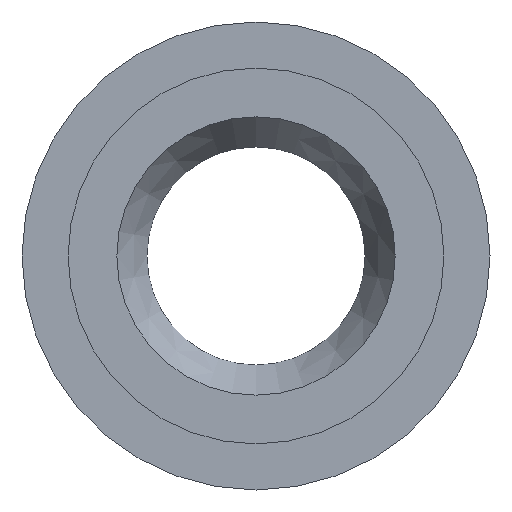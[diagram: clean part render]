
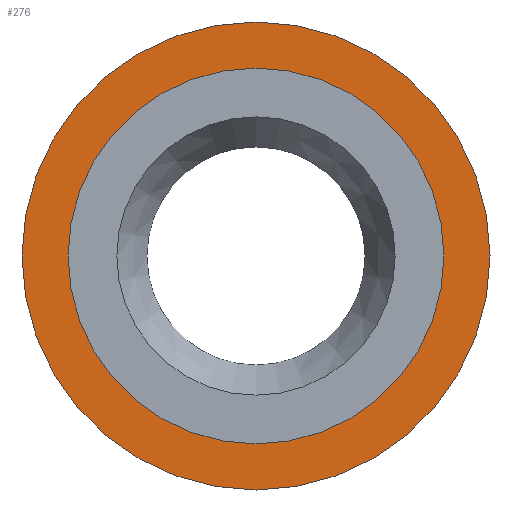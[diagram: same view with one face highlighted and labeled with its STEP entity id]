
A CAD part, front view. The second image highlights one B-rep face of the part: STEP entity #276.
In plain terms, the highlighted planar face has unit normal (0, -1, 0).
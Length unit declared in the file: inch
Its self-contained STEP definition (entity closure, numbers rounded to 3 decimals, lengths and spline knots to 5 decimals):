
#11 = ORIENTED_EDGE ( 'NONE', *, *, #348, .F. ) ;
#13 = VERTEX_POINT ( 'NONE', #258 ) ;
#14 = EDGE_CURVE ( 'NONE', #66, #250, #43, .T. ) ;
#15 = VERTEX_POINT ( 'NONE', #257 ) ;
#22 = AXIS2_PLACEMENT_3D ( 'NONE', #113, #264, #79 ) ;
#25 = CARTESIAN_POINT ( 'NONE',  ( 0., 0.15, 0. ) ) ;
#43 = CIRCLE ( 'NONE', #274, 0.94 ) ;
#56 = DIRECTION ( 'NONE',  ( 0., 0., 1. ) ) ;
#59 = DIRECTION ( 'NONE',  ( 0., 1., 0. ) ) ;
#64 = CIRCLE ( 'NONE', #268, 0.94 ) ;
#66 = VERTEX_POINT ( 'NONE', #229 ) ;
#69 = EDGE_LOOP ( 'NONE', ( #161, #11 ) ) ;
#74 = AXIS2_PLACEMENT_3D ( 'NONE', #25, #232, #373 ) ;
#75 = EDGE_LOOP ( 'NONE', ( #319, #349 ) ) ;
#79 = DIRECTION ( 'NONE',  ( 0., 0., 1. ) ) ;
#92 = CARTESIAN_POINT ( 'NONE',  ( 0., 0.15, 0. ) ) ;
#94 = CARTESIAN_POINT ( 'NONE',  ( 0., 0.15, 0. ) ) ;
#113 = CARTESIAN_POINT ( 'NONE',  ( 0., 0.15, 0. ) ) ;
#114 = CARTESIAN_POINT ( 'NONE',  ( 0., 0.15, 0.94 ) ) ;
#126 = EDGE_CURVE ( 'NONE', #13, #15, #133, .T. ) ;
#132 = EDGE_CURVE ( 'NONE', #15, #13, #283, .T. ) ;
#133 = CIRCLE ( 'NONE', #22, 0.755 ) ;
#158 = FACE_BOUND ( 'NONE', #75, .T. ) ;
#161 = ORIENTED_EDGE ( 'NONE', *, *, #14, .F. ) ;
#179 = CARTESIAN_POINT ( 'NONE',  ( 0., 0.15, 0. ) ) ;
#193 = AXIS2_PLACEMENT_3D ( 'NONE', #179, #289, #205 ) ;
#205 = DIRECTION ( 'NONE',  ( 0., 0., 1. ) ) ;
#229 = CARTESIAN_POINT ( 'NONE',  ( 0., 0.15, -0.94 ) ) ;
#232 = DIRECTION ( 'NONE',  ( 0., 1., 0. ) ) ;
#248 = FACE_OUTER_BOUND ( 'NONE', #69, .T. ) ;
#250 = VERTEX_POINT ( 'NONE', #114 ) ;
#257 = CARTESIAN_POINT ( 'NONE',  ( 0., 0.15, -0.755 ) ) ;
#258 = CARTESIAN_POINT ( 'NONE',  ( 0., 0.15, 0.755 ) ) ;
#264 = DIRECTION ( 'NONE',  ( 0., 1., 0. ) ) ;
#268 = AXIS2_PLACEMENT_3D ( 'NONE', #94, #59, #304 ) ;
#274 = AXIS2_PLACEMENT_3D ( 'NONE', #92, #275, #56 ) ;
#275 = DIRECTION ( 'NONE',  ( 0., 1., 0. ) ) ;
#276 = ADVANCED_FACE ( 'NONE', ( #158, #248 ), #296, .F. ) ;
#283 = CIRCLE ( 'NONE', #74, 0.755 ) ;
#289 = DIRECTION ( 'NONE',  ( 0., 1., 0. ) ) ;
#296 = PLANE ( 'NONE',  #193 ) ;
#304 = DIRECTION ( 'NONE',  ( 0., 0., 1. ) ) ;
#319 = ORIENTED_EDGE ( 'NONE', *, *, #132, .T. ) ;
#348 = EDGE_CURVE ( 'NONE', #250, #66, #64, .T. ) ;
#349 = ORIENTED_EDGE ( 'NONE', *, *, #126, .T. ) ;
#373 = DIRECTION ( 'NONE',  ( 0., 0., 1. ) ) ;
